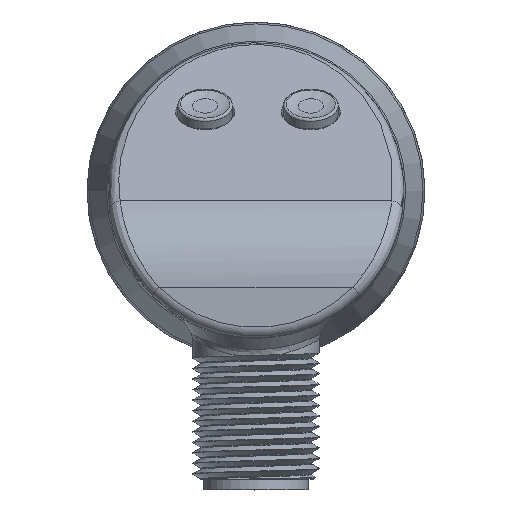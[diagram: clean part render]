
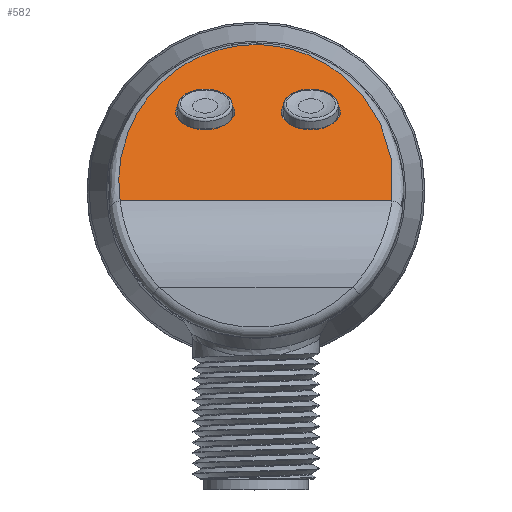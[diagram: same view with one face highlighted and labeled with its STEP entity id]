
A CAD part, top view. The second image highlights one B-rep face of the part: STEP entity #582.
In plain terms, the highlighted planar face has unit normal (0, 0.819, 0.574).
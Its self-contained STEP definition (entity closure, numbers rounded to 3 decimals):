
#322=ELLIPSE('',#3452,22.665,13.);
#361=FACE_BOUND('',#1025,.T.);
#362=FACE_BOUND('',#1026,.T.);
#363=FACE_BOUND('',#1027,.T.);
#582=ADVANCED_FACE('',(#361,#362,#363),#758,.T.);
#758=PLANE('',#3453);
#1025=EDGE_LOOP('',(#2008));
#1026=EDGE_LOOP('',(#2009));
#1027=EDGE_LOOP('',(#2010,#2011));
#1360=LINE('',#7071,#1518);
#1518=VECTOR('',#4069,1.);
#2008=ORIENTED_EDGE('',*,*,#2985,.T.);
#2009=ORIENTED_EDGE('',*,*,#2986,.T.);
#2010=ORIENTED_EDGE('',*,*,#2987,.T.);
#2011=ORIENTED_EDGE('',*,*,#2988,.T.);
#2633=VERTEX_POINT('',#7068);
#2634=VERTEX_POINT('',#7070);
#2635=VERTEX_POINT('',#7072);
#2636=VERTEX_POINT('',#7073);
#2985=EDGE_CURVE('',#2633,#2633,#3217,.T.);
#2986=EDGE_CURVE('',#2634,#2634,#3218,.T.);
#2987=EDGE_CURVE('',#2635,#2636,#1360,.T.);
#2988=EDGE_CURVE('',#2636,#2635,#322,.T.);
#3217=CIRCLE('',#3450,2.8);
#3218=CIRCLE('',#3451,2.8);
#3450=AXIS2_PLACEMENT_3D('',#7067,#4065,#4066);
#3451=AXIS2_PLACEMENT_3D('',#7069,#4067,#4068);
#3452=AXIS2_PLACEMENT_3D('',#7074,#4070,#4071);
#3453=AXIS2_PLACEMENT_3D('',#7075,#4072,#4073);
#4065=DIRECTION('',(0.,-0.819,-0.574));
#4066=DIRECTION('',(0.,-0.574,0.819));
#4067=DIRECTION('',(0.,-0.819,-0.574));
#4068=DIRECTION('',(0.,-0.574,0.819));
#4069=DIRECTION('',(1.,0.,0.));
#4070=DIRECTION('',(0.,0.819,0.574));
#4071=DIRECTION('',(0.,0.574,-0.819));
#4072=DIRECTION('',(0.,0.819,0.574));
#4073=DIRECTION('',(0.,-0.574,0.819));
#7067=CARTESIAN_POINT('',(5.188,7.421,29.701));
#7068=CARTESIAN_POINT('',(5.188,5.815,31.995));
#7069=CARTESIAN_POINT('',(-4.812,7.421,29.701));
#7070=CARTESIAN_POINT('',(-4.812,5.815,31.995));
#7071=CARTESIAN_POINT('',(5.,-1.006,41.736));
#7072=CARTESIAN_POINT('',(-12.871,-1.006,41.736));
#7073=CARTESIAN_POINT('',(12.871,-1.006,41.736));
#7074=CARTESIAN_POINT('',(0.,0.819,39.13));
#7075=CARTESIAN_POINT('',(5.,5.5,32.444));
